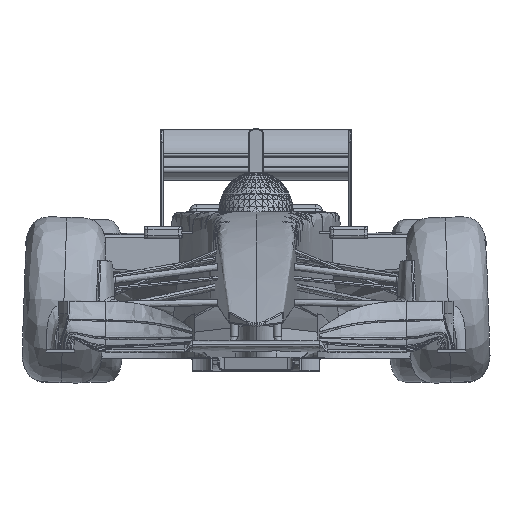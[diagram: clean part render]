
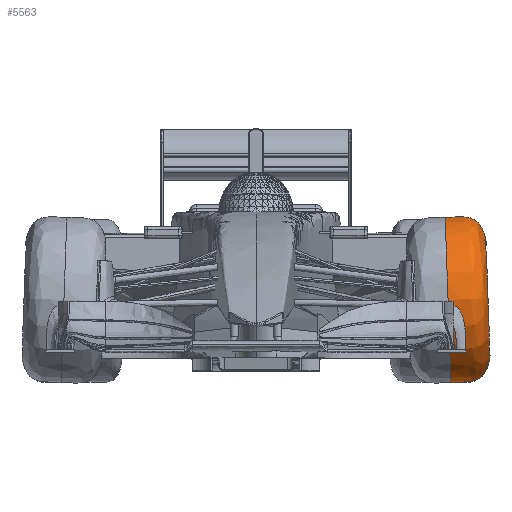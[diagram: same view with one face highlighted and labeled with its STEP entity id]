
A CAD part, front view. The second image highlights one B-rep face of the part: STEP entity #5563.
In plain terms, the highlighted free-form (B-spline) face has degree [7, 3] with [8, 4] control points.
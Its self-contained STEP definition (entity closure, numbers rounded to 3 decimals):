
#5563=ADVANCED_FACE('0:194522',(#11213),#11214,.T.);
#11213=FACE_OUTER_BOUND('',#42060,.T.);
#11214=(B_SPLINE_SURFACE(7,3,((#42062,#42063,#42064,#42065),(#42066,#42067,#42068,#42069),(#42070,#42071,#42072,#42073),(#42074,#42075,#42076,#42077),(#42078,#42079,#42080,#42081),(#42082,#42083,#42084,#42085),(#42086,#42087,#42088,#42089),(#42090,#42091,#42092,#42093)),.UNSPECIFIED.,.F.,.F.,.F.)B_SPLINE_SURFACE_WITH_KNOTS((8,8),(4,4),(0.0,1.0),(0.0,1.0),.UNSPECIFIED.)RATIONAL_B_SPLINE_SURFACE(((1.0,0.333,0.333,1.0),(1.0,0.333,0.333,1.0),(1.0,0.333,0.333,1.0),(1.0,0.333,0.333,1.0),(1.0,0.333,0.333,1.0),(1.0,0.333,0.333,1.0),(1.0,0.333,0.333,1.0),(1.0,0.333,0.333,1.0)))BOUNDED_SURFACE()REPRESENTATION_ITEM('')GEOMETRIC_REPRESENTATION_ITEM()SURFACE());
#42060=EDGE_LOOP('',(#60915,#60916,#60917,#60918));
#42062=CARTESIAN_POINT('',(766.359,0.,-5.568));
#42063=CARTESIAN_POINT('',(766.359,-650.949,-5.568));
#42064=CARTESIAN_POINT('',(743.641,-650.949,644.984));
#42065=CARTESIAN_POINT('',(743.641,0.,644.984));
#42066=CARTESIAN_POINT('',(832.987,0.,-3.241));
#42067=CARTESIAN_POINT('',(832.987,-650.949,-3.241));
#42068=CARTESIAN_POINT('',(810.269,-650.949,647.311));
#42069=CARTESIAN_POINT('',(810.269,0.,647.311));
#42070=CARTESIAN_POINT('',(861.397,0.,-2.249));
#42071=CARTESIAN_POINT('',(861.397,-650.949,-2.249));
#42072=CARTESIAN_POINT('',(838.679,-650.949,648.303));
#42073=CARTESIAN_POINT('',(838.679,0.,648.303));
#42074=CARTESIAN_POINT('',(880.327,0.,-1.588));
#42075=CARTESIAN_POINT('',(880.327,-650.949,-1.588));
#42076=CARTESIAN_POINT('',(857.609,-650.949,648.964));
#42077=CARTESIAN_POINT('',(857.609,0.,648.964));
#42078=CARTESIAN_POINT('',(902.471,0.,19.095));
#42079=CARTESIAN_POINT('',(902.471,-611.153,19.095));
#42080=CARTESIAN_POINT('',(881.142,-611.153,629.876));
#42081=CARTESIAN_POINT('',(881.142,0.,629.876));
#42082=CARTESIAN_POINT('',(925.766,0.,63.676));
#42083=CARTESIAN_POINT('',(925.766,-523.672,63.676));
#42084=CARTESIAN_POINT('',(907.491,-523.672,587.029));
#42085=CARTESIAN_POINT('',(907.491,0.,587.029));
#42086=CARTESIAN_POINT('',(929.048,0.,108.064));
#42087=CARTESIAN_POINT('',(929.048,-435.18,108.064));
#42088=CARTESIAN_POINT('',(913.861,-435.18,542.978));
#42089=CARTESIAN_POINT('',(913.861,0.,542.978));
#42090=CARTESIAN_POINT('',(909.784,0.,146.476));
#42091=CARTESIAN_POINT('',(909.784,-357.057,146.476));
#42092=CARTESIAN_POINT('',(897.323,-357.057,503.315));
#42093=CARTESIAN_POINT('',(897.323,0.,503.315));
#60915=ORIENTED_EDGE('',*,*,#66786,.T.);
#60916=ORIENTED_EDGE('',*,*,#66787,.T.);
#60917=ORIENTED_EDGE('',*,*,#66788,.T.);
#60918=ORIENTED_EDGE('',*,*,#66789,.F.);
#66786=EDGE_CURVE('0:194552',#74487,#74488,#74489,.T.);
#66787=EDGE_CURVE('0:194555',#74488,#74490,#74491,.T.);
#66788=EDGE_CURVE('0:194558',#74490,#74492,#74493,.T.);
#66789=EDGE_CURVE('0:194561',#74487,#74492,#74494,.T.);
#74487=VERTEX_POINT('NONE',#116011);
#74488=VERTEX_POINT('NONE',#116012);
#74489=CIRCLE('',#116013,325.474);
#74490=VERTEX_POINT('NONE',#116014);
#74491=B_SPLINE_CURVE_WITH_KNOTS('',7,(#116015,#116016,#116017,#116018,#116019,#116020,#116021,#116022),.UNSPECIFIED.,.F.,.F.,(8,8),(0.0,1.0),.UNSPECIFIED.);
#74492=VERTEX_POINT('NONE',#116023);
#74493=CIRCLE('',#116024,178.528);
#74494=B_SPLINE_CURVE_WITH_KNOTS('',7,(#116025,#116026,#116027,#116028,#116029,#116030,#116031,#116032),.UNSPECIFIED.,.F.,.F.,(8,8),(0.0,1.0),.UNSPECIFIED.);
#116011=CARTESIAN_POINT('',(743.641,0.0,644.984));
#116012=CARTESIAN_POINT('',(766.359,0.,-5.568));
#116013=AXIS2_PLACEMENT_3D('',#121065,#121066,#121067);
#116014=CARTESIAN_POINT('',(909.784,0.,146.476));
#116015=CARTESIAN_POINT('',(766.359,0.,-5.568));
#116016=CARTESIAN_POINT('',(832.987,0.,-3.241));
#116017=CARTESIAN_POINT('',(861.397,0.,-2.249));
#116018=CARTESIAN_POINT('',(880.327,0.,-1.588));
#116019=CARTESIAN_POINT('',(902.471,0.,19.095));
#116020=CARTESIAN_POINT('',(925.766,0.,63.676));
#116021=CARTESIAN_POINT('',(929.048,0.,108.064));
#116022=CARTESIAN_POINT('',(909.784,0.,146.476));
#116023=CARTESIAN_POINT('',(897.323,0.0,503.315));
#116024=AXIS2_PLACEMENT_3D('',#121068,#121069,#121070);
#116025=CARTESIAN_POINT('',(743.641,0.0,644.984));
#116026=CARTESIAN_POINT('',(810.269,0.0,647.311));
#116027=CARTESIAN_POINT('',(838.679,0.0,648.303));
#116028=CARTESIAN_POINT('',(857.609,0.0,648.964));
#116029=CARTESIAN_POINT('',(881.142,0.0,629.876));
#116030=CARTESIAN_POINT('',(907.491,0.0,587.029));
#116031=CARTESIAN_POINT('',(913.861,0.0,542.978));
#116032=CARTESIAN_POINT('',(897.323,0.0,503.315));
#121065=CARTESIAN_POINT('',(755.0,0.0,319.708));
#121066=DIRECTION('',(0.999,0.0,0.035));
#121067=DIRECTION('',(-0.035,0.0,0.999));
#121068=CARTESIAN_POINT('',(903.554,0.0,324.896));
#121069=DIRECTION('',(-0.999,0.0,-0.035));
#121070=DIRECTION('',(-0.035,0.0,0.999));
